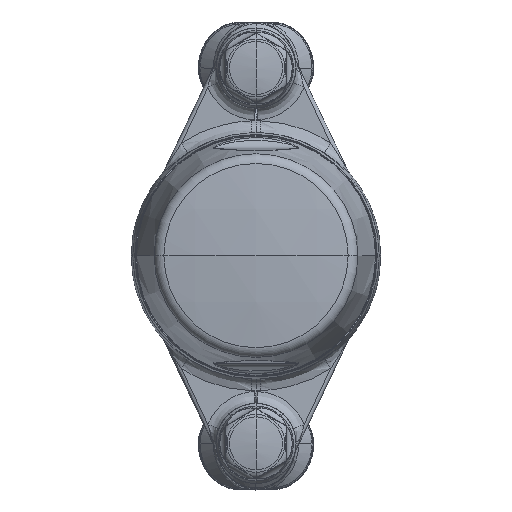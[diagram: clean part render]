
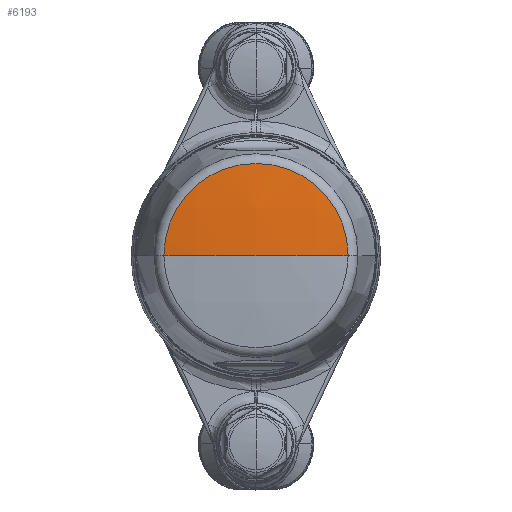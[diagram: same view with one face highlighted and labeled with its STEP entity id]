
A CAD part, top view. The second image highlights one B-rep face of the part: STEP entity #6193.
In plain terms, the highlighted spherical face has radius 200 mm.
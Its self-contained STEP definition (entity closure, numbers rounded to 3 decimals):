
#789 = AXIS2_PLACEMENT_3D ( 'NONE', #42611, #3301, #39506 ) ;
#1237 = DIRECTION ( 'NONE',  ( 1., 0., 0. ) ) ;
#2449 = AXIS2_PLACEMENT_3D ( 'NONE', #24041, #48084, #5159 ) ;
#3301 = DIRECTION ( 'NONE',  ( 0., 1., 0. ) ) ;
#3322 = CARTESIAN_POINT ( 'NONE',  ( 0., 0., 41.751 ) ) ;
#3559 = CIRCLE ( 'NONE', #28331, 200. ) ;
#5159 = DIRECTION ( 'NONE',  ( 1., 0., 0. ) ) ;
#6193 = ADVANCED_FACE ( 'NONE', ( #16538 ), #12390, .T. ) ;
#12390 = SPHERICAL_SURFACE ( 'NONE', #2449, 200. ) ;
#14347 = CARTESIAN_POINT ( 'NONE',  ( 0., 0., 40.272 ) ) ;
#16538 = FACE_OUTER_BOUND ( 'NONE', #29251, .T. ) ;
#20665 = DIRECTION ( 'NONE',  ( 0., -1., 0. ) ) ;
#24041 = CARTESIAN_POINT ( 'NONE',  ( 0., 0., -158.249 ) ) ;
#26030 = CARTESIAN_POINT ( 'NONE',  ( 24.283, 0., 40.272 ) ) ;
#26288 = AXIS2_PLACEMENT_3D ( 'NONE', #14347, #30361, #46413 ) ;
#26398 = ORIENTED_EDGE ( 'NONE', *, *, #32055, .F. ) ;
#27454 = EDGE_CURVE ( 'NONE', #37158, #35319, #35378, .T. ) ;
#28077 = CIRCLE ( 'NONE', #789, 200. ) ;
#28331 = AXIS2_PLACEMENT_3D ( 'NONE', #32303, #20665, #1237 ) ;
#29251 = EDGE_LOOP ( 'NONE', ( #26398, #47291, #48227 ) ) ;
#30361 = DIRECTION ( 'NONE',  ( 0., 0., 1. ) ) ;
#32055 = EDGE_CURVE ( 'NONE', #38308, #35319, #3559, .T. ) ;
#32303 = CARTESIAN_POINT ( 'NONE',  ( 0., 0., -158.249 ) ) ;
#35319 = VERTEX_POINT ( 'NONE', #40802 ) ;
#35378 = CIRCLE ( 'NONE', #26288, 24.283 ) ;
#37158 = VERTEX_POINT ( 'NONE', #26030 ) ;
#38308 = VERTEX_POINT ( 'NONE', #3322 ) ;
#39506 = DIRECTION ( 'NONE',  ( -1., 0., 0. ) ) ;
#40802 = CARTESIAN_POINT ( 'NONE',  ( -24.283, 0., 40.272 ) ) ;
#42611 = CARTESIAN_POINT ( 'NONE',  ( 0., 0., -158.249 ) ) ;
#44066 = EDGE_CURVE ( 'NONE', #38308, #37158, #28077, .T. ) ;
#46413 = DIRECTION ( 'NONE',  ( -1., 0., 0. ) ) ;
#47291 = ORIENTED_EDGE ( 'NONE', *, *, #44066, .T. ) ;
#48084 = DIRECTION ( 'NONE',  ( 0., -1., 0. ) ) ;
#48227 = ORIENTED_EDGE ( 'NONE', *, *, #27454, .T. ) ;
